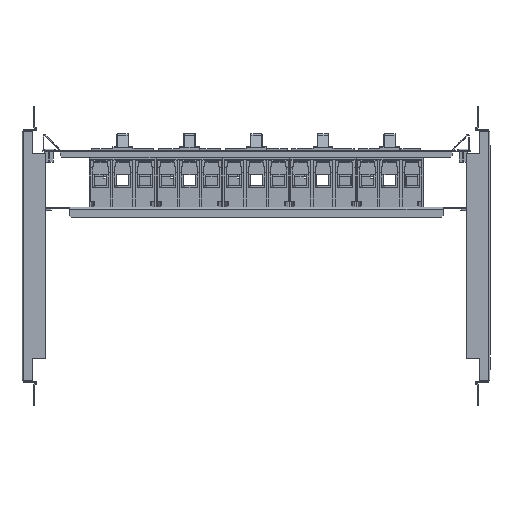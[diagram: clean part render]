
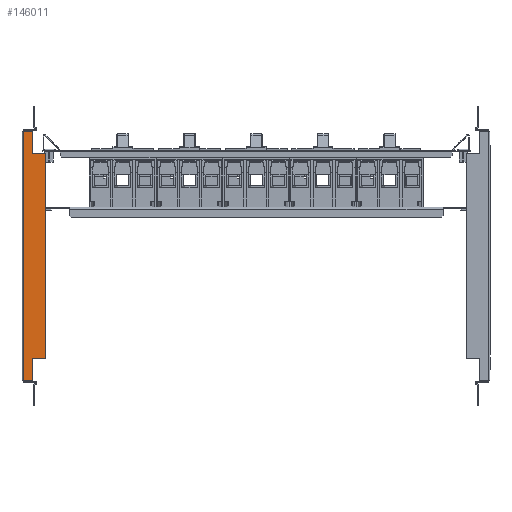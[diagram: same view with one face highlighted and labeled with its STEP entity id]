
A CAD part, front view. The second image highlights one B-rep face of the part: STEP entity #146011.
In plain terms, the highlighted planar face has unit normal (0, -1, 0).
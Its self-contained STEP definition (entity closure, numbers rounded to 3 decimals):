
#142806=CARTESIAN_POINT(' ',(-265.611,-69.467,-261.046));
#142807=VERTEX_POINT(' ',#142806);
#143986=CARTESIAN_POINT(' ',(-265.611,-69.467,19.752));
#143987=VERTEX_POINT(' ',#143986);
#144626=CARTESIAN_POINT(' ',(-257.711,-69.467,-261.046));
#144627=VERTEX_POINT(' ',#144626);
#144641=CARTESIAN_POINT(' ',(-265.611,-69.467,-261.046));
#144646=DIRECTION(' ',(1.,0.,0.));
#144651=VECTOR(' ',#144646,1.);
#144656=LINE('',#144641,#144651);
#144661=EDGE_CURVE(' ',#142807,#144627,#144656,.T.);
#144726=CARTESIAN_POINT(' ',(-265.611,-69.467,-261.046));
#144731=DIRECTION(' ',(0.,0.,1.));
#144736=VECTOR(' ',#144731,1.);
#144741=LINE('',#144726,#144736);
#144746=EDGE_CURVE(' ',#142807,#143987,#144741,.T.);
#144801=CARTESIAN_POINT(' ',(-265.611,-69.467,19.752));
#144806=DIRECTION(' ',(1.,0.,0.));
#144811=VECTOR(' ',#144806,1.);
#144816=LINE('',#144801,#144811);
#144821=CARTESIAN_POINT(' ',(-257.711,-69.467,19.752));
#144822=VERTEX_POINT(' ',#144821);
#144826=EDGE_CURVE(' ',#143987,#144822,#144816,.T.);
#144916=CARTESIAN_POINT(' ',(-257.71,-69.467,18.252));
#144921=DIRECTION(' ',(-0.,-1.,-0.));
#144926=DIRECTION(' ',(1.,0.,0.));
#144931=AXIS2_PLACEMENT_3D(' ',#144916,#144921,#144926);
#144936=CIRCLE('',#144931,1.5);
#144941=CARTESIAN_POINT(' ',(-256.211,-69.467,18.252));
#144942=VERTEX_POINT(' ',#144941);
#144946=EDGE_CURVE(' ',#144942,#144822,#144936,.T.);
#145046=CARTESIAN_POINT(' ',(-256.211,-69.467,18.252));
#145051=DIRECTION(' ',(0.,0.,-1.));
#145056=VECTOR(' ',#145051,1.);
#145061=LINE('',#145046,#145056);
#145066=CARTESIAN_POINT(' ',(-256.211,-69.467,-5.648));
#145067=VERTEX_POINT(' ',#145066);
#145071=EDGE_CURVE(' ',#144942,#145067,#145061,.T.);
#145151=CARTESIAN_POINT(' ',(-256.211,-69.467,-5.648));
#145156=DIRECTION(' ',(1.,0.,0.));
#145161=VECTOR(' ',#145156,1.);
#145166=LINE('',#145151,#145161);
#145171=CARTESIAN_POINT(' ',(-242.711,-69.467,-5.648));
#145172=VERTEX_POINT(' ',#145171);
#145176=EDGE_CURVE(' ',#145067,#145172,#145166,.T.);
#145266=CARTESIAN_POINT(' ',(-242.71,-69.467,-7.148));
#145271=DIRECTION(' ',(-0.,-1.,-0.));
#145276=DIRECTION(' ',(1.,0.,0.));
#145281=AXIS2_PLACEMENT_3D(' ',#145266,#145271,#145276);
#145286=CIRCLE('',#145281,1.5);
#145291=CARTESIAN_POINT(' ',(-241.211,-69.467,-7.148));
#145292=VERTEX_POINT(' ',#145291);
#145296=EDGE_CURVE(' ',#145292,#145172,#145286,.T.);
#145386=CARTESIAN_POINT(' ',(-241.211,-69.467,-234.146));
#145391=DIRECTION(' ',(0.,0.,1.));
#145396=VECTOR(' ',#145391,1.);
#145401=LINE('',#145386,#145396);
#145406=CARTESIAN_POINT(' ',(-241.211,-69.467,-234.146));
#145407=VERTEX_POINT(' ',#145406);
#145411=EDGE_CURVE(' ',#145407,#145292,#145401,.T.);
#145501=CARTESIAN_POINT(' ',(-242.71,-69.467,-234.147));
#145506=DIRECTION(' ',(-0.,-1.,0.));
#145511=DIRECTION(' ',(0.,0.,-1.));
#145516=AXIS2_PLACEMENT_3D(' ',#145501,#145506,#145511);
#145521=CIRCLE('',#145516,1.499);
#145526=CARTESIAN_POINT(' ',(-242.711,-69.467,-235.646));
#145527=VERTEX_POINT(' ',#145526);
#145531=EDGE_CURVE(' ',#145527,#145407,#145521,.T.);
#145631=CARTESIAN_POINT(' ',(-256.211,-69.467,-235.646));
#145636=DIRECTION(' ',(1.,0.,0.));
#145641=VECTOR(' ',#145636,1.);
#145646=LINE('',#145631,#145641);
#145651=CARTESIAN_POINT(' ',(-256.211,-69.467,-235.646));
#145652=VERTEX_POINT(' ',#145651);
#145656=EDGE_CURVE(' ',#145652,#145527,#145646,.T.);
#145736=CARTESIAN_POINT(' ',(-256.211,-69.467,-259.546));
#145741=DIRECTION(' ',(0.,0.,1.));
#145746=VECTOR(' ',#145741,1.);
#145751=LINE('',#145736,#145746);
#145756=CARTESIAN_POINT(' ',(-256.211,-69.467,-259.546));
#145757=VERTEX_POINT(' ',#145756);
#145761=EDGE_CURVE(' ',#145757,#145652,#145751,.T.);
#145861=CARTESIAN_POINT(' ',(-257.71,-69.467,-259.547));
#145866=DIRECTION(' ',(-0.,-1.,0.));
#145871=DIRECTION(' ',(0.,0.,-1.));
#145876=AXIS2_PLACEMENT_3D(' ',#145861,#145866,#145871);
#145881=CIRCLE('',#145876,1.499);
#145886=EDGE_CURVE(' ',#144627,#145757,#145881,.T.);
#145916=DIRECTION(' ',(0.,-1.,0.));
#145921=CARTESIAN_POINT(' ',(-265.611,-69.467,19.752));
#145926=DIRECTION(' ',(0.,0.,-1.));
#145931=AXIS2_PLACEMENT_3D(' ',#145921,#145916,#145926);
#145936=PLANE('NONE',#145931);
#145941=ORIENTED_EDGE(' ',*,*,#145071,.F.);
#145946=ORIENTED_EDGE(' ',*,*,#144946,.T.);
#145951=ORIENTED_EDGE(' ',*,*,#144826,.F.);
#145956=ORIENTED_EDGE(' ',*,*,#144746,.F.);
#145961=ORIENTED_EDGE(' ',*,*,#144661,.T.);
#145966=ORIENTED_EDGE(' ',*,*,#145886,.T.);
#145971=ORIENTED_EDGE(' ',*,*,#145761,.T.);
#145976=ORIENTED_EDGE(' ',*,*,#145656,.T.);
#145981=ORIENTED_EDGE(' ',*,*,#145531,.T.);
#145986=ORIENTED_EDGE(' ',*,*,#145411,.T.);
#145991=ORIENTED_EDGE(' ',*,*,#145296,.T.);
#145996=ORIENTED_EDGE(' ',*,*,#145176,.F.);
#146001=EDGE_LOOP(' ',(#145941,#145946,#145951,#145956,#145961,#145966,#145971,#145976,#145981,#145986,#145991,#145996));
#146006=FACE_OUTER_BOUND(' ',#146001,.T.);
#146011=ADVANCED_FACE('NONE',(#146006),#145936,.T.);
